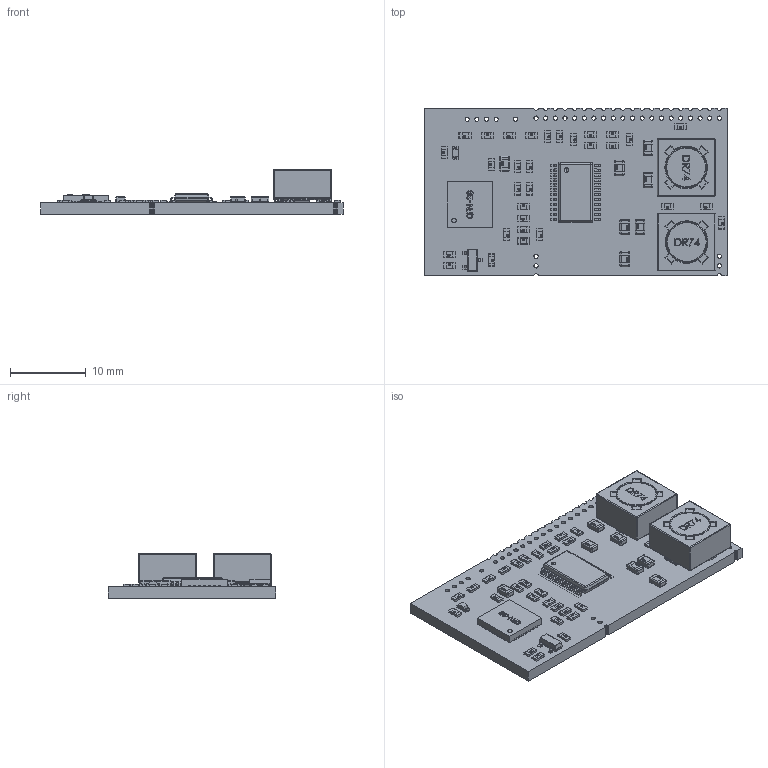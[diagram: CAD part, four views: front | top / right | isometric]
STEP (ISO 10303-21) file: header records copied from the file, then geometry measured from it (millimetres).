
FILE_DESCRIPTION(('Open CASCADE Model'),'2;1');
FILE_NAME('Open CASCADE Shape Model','2015-02-23T16:40:59',('Author'),( 'Open CASCADE'),'Open CASCADE STEP processor 6.2','Open CASCADE 6.2' ,'Unknown');
FILE_SCHEMA(('AUTOMOTIVE_DESIGN { 1 0 10303 214 1 1 1 1 }'));
Length unit declared in the file: millimetre
Products named in the file (88): PCB; Board; C15; User_Library-0603_SMD_Capacitor; C16; L3; User_Library-0805_SMD_Capacitor; T1; User_Library-SOT-23-1; User_Library-SOT-23-1_1_1; User_Library-SOT-23-1_2_1; User_Library-SOT-23-1_3_1; User_Library-SOT-23-1_4_1; User_Library-SOT-23-1_5_1; C8; U2; User_Library-User_Library-TSSOP-24; U1; SW3dPS-QFN-28; SW3dPS-QFN-28_Board1; SW3dPS-QFN-28_Free-Models1; SW3dPS-QFN-28_358336593; SW3dPS-QFN-28_Extruded22; SW3dPS-QFN-28_358110817; SW3dPS-QFN-28_Cylinder1; SW3dPS-QFN-28_358336849; SW3dPS-QFN-28_Extruded25; SW3dPS-QFN-28_358338769; SW3dPS-QFN-28_Extruded20; SW3dPS-QFN-28_358336465; SW3dPS-QFN-28_Extruded14; SW3dPS-QFN-28_358339921; SW3dPS-QFN-28_Extruded24; SW3dPS-QFN-28_358337105; SW3dPS-QFN-28_Extruded16; SW3dPS-QFN-28_358339665; SW3dPS-QFN-28_Extruded19; SW3dPS-QFN-28_358334033; SW3dPS-QFN-28_Extruded17; SW3dPS-QFN-28_358337873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
Assembly tree (148 placements, depth 6):
  PCB
    Board
    C15
      User_Library-0603_SMD_Capacitor
    C16
      User_Library-0603_SMD_Capacitor
    L3
      User_Library-0805_SMD_Capacitor
    T1
      User_Library-SOT-23-1
        User_Library-SOT-23-1_1_1
        User_Library-SOT-23-1_2_1
        User_Library-SOT-23-1_3_1
        User_Library-SOT-23-1_4_1
        User_Library-SOT-23-1_5_1
    C8
      User_Library-0603_SMD_Capacitor
    U2
      User_Library-User_Library-TSSOP-24
    U1
      SW3dPS-QFN-28
        SW3dPS-QFN-28_Board1
        SW3dPS-QFN-28_Free-Models1
          SW3dPS-QFN-28_358336593  x7
            SW3dPS-QFN-28_Extruded22
          SW3dPS-QFN-28_358110817
            SW3dPS-QFN-28_Cylinder1
          SW3dPS-QFN-28_358336849  x7
            SW3dPS-QFN-28_Extruded25
          SW3dPS-QFN-28_358338769
            SW3dPS-QFN-28_Extruded20
          SW3dPS-QFN-28_358336465  x7
            SW3dPS-QFN-28_Extruded14
          SW3dPS-QFN-28_358339921
            SW3dPS-QFN-28_Extruded24
          SW3dPS-QFN-28_358337105
            SW3dPS-QFN-28_Extruded16
          SW3dPS-QFN-28_358339665
            SW3dPS-QFN-28_Extruded19
          SW3dPS-QFN-28_358334033
            SW3dPS-QFN-28_Extruded17
          SW3dPS-QFN-28_358337873  x7
            SW3dPS-QFN-28_Extruded21
          SW3dPS-QFN-28_358339025
            SW3dPS-QFN-28_Extruded23
          SW3dPS-QFN-28_358338001
            SW3dPS-QFN-28_Extruded13
          SW3dPS-QFN-28_358339537
            SW3dPS-QFN-28_Extruded18
          SW3dPS-QFN-28_358337233
            SW3dPS-QFN-28_Extruded15
    R11
      User_Library-0603_SMD_Capacitor
    R2
      User_Library-0603_SMD_Capacitor
    R1
      User_Library-0603_SMD_Capacitor
    C11
      User_Library-0603_SMD_Capacitor
    C9
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Bounding box: 39.8 x 22 x 5.91 mm (x, y, z)
Volume: 1901.4 mm3; surface area: 3006.9 mm2
Topology: 100 solids, 106 shells, 5085 faces, 12733 edges, 7745 vertices
Faces by surface type: plane 2205, bspline 1466, cylinder 1052, sphere 330, torus 32
Full cylindrical faces by diameter (mm): 0.55 x29
Entity records: 110309 total; most frequent: CARTESIAN_POINT 35422, DIRECTION 12096, LINE 7994, VECTOR 7994, ORIENTED_EDGE 7232, PCURVE 7232, DEFINITIONAL_REPRESENTATION 7232, EDGE_CURVE 3622
